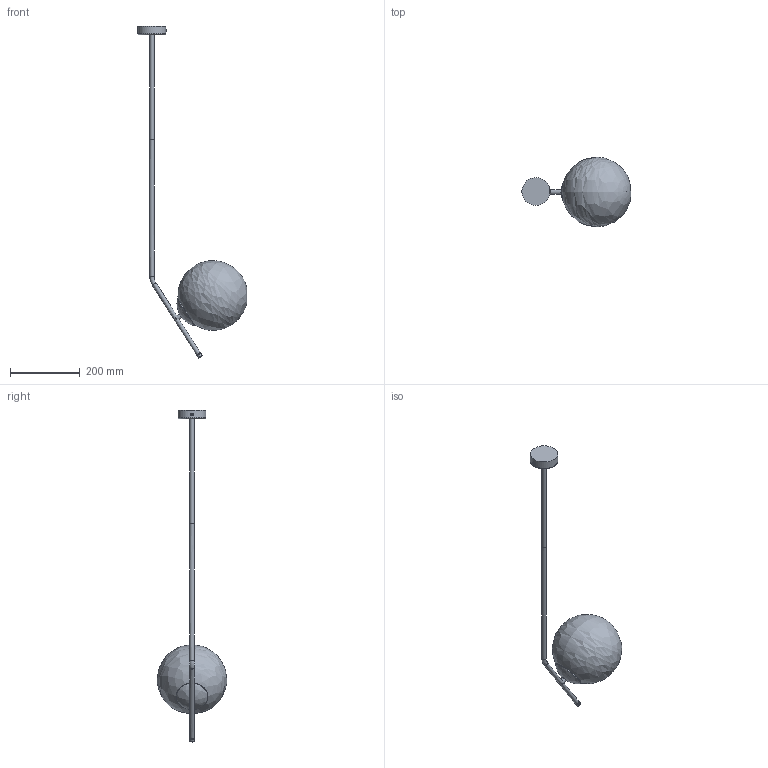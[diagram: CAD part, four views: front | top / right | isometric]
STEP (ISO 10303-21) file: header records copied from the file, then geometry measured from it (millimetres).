
FILE_DESCRIPTION ((), '1');
FILE_NAME ('C:\Users\MiCHAL\Desktop\ALDEX - Modele 3D 17.08.2022\1095PL_G1_L\1095PL_G1_L\1095PL_G1_L.stp', '2022-09-20T03:03:25', ('Unknown'), ('Unknown'), 'HarmonyWare STEP v2.1.4', 'HarmonyWare Translators', '');
FILE_SCHEMA (('CONFIG_CONTROL_DESIGN'));
Length unit declared in the file: centimetre
Assembly tree (8 placements, depth 2):
  (unnamed)
    (unnamed)
    (unnamed)
    (unnamed)
    (unnamed)
    (unnamed)
    (unnamed)
    (unnamed)
    (unnamed)
Bounding box: 315.54 x 200 x 952.49 mm (x, y, z)
Volume: 4504980.7 mm3; surface area: 195545.2 mm2
Topology: 8 solids, 8 shells, 31 faces, 52 edges, 40 vertices
Faces by surface type: bspline 31
Entity records: 3510 total; most frequent: CARTESIAN_POINT 1937, PERSON 88, ORGANIZATION 88, PERSON_AND_ORGANIZATION 88, ORIENTED_EDGE 82, CALENDAR_DATE 61, COORDINATED_UNIVERSAL_TIME_OFFSET 61, LOCAL_TIME 61
